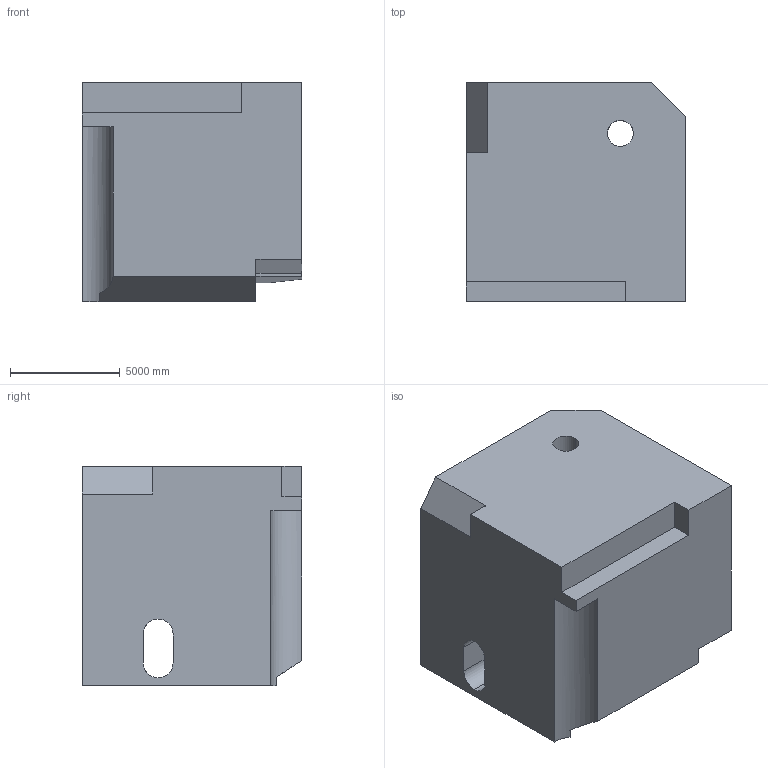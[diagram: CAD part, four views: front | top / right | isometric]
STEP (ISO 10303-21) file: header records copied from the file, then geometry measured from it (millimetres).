
FILE_DESCRIPTION (( 'STEP AP203' ), '1' );
FILE_NAME ('170.STEP', '2022-09-06T15:20:02', ( 'user' ), ( '' ), 'SwSTEP 2.0', 'SolidWorks 2021', '' );
FILE_SCHEMA (( 'CONFIG_CONTROL_DESIGN' ));
Length unit declared in the file: centimetre
Products named in the file (1): 170
Bounding box: 10000 x 10000 x 10000 mm (x, y, z)
Volume: 887954360401.4 mm3; surface area: 655721014.5 mm2
Topology: 1 solids, 1 shells, 27 faces, 81 edges, 54 vertices
Faces by surface type: plane 21, cylinder 6
Entity records: 1226 total; most frequent: CARTESIAN_POINT 400, ORIENTED_EDGE 162, DIRECTION 146, EDGE_CURVE 81, VECTOR 66, LINE 66, VERTEX_POINT 54, AXIS2_PLACEMENT_3D 40
